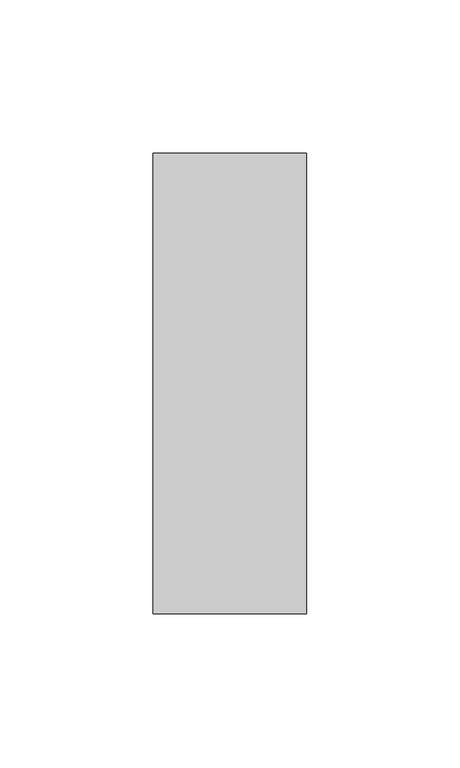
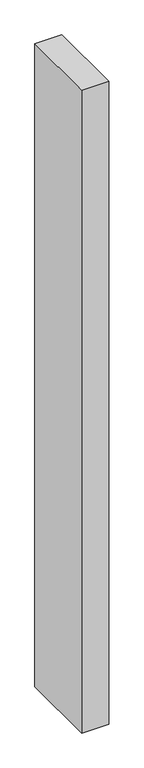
"""IFC4 building model written with IfcOpenShell, lengths in millimetres: member geometry, Прямоугольный импост : 50 x 150 мм."""

from ifc_helpers import new_model, si_unit, frame, origin, place, context, project, spatial, polyline, outline, extrude, source, transform, mapped, element, save


def member_e086a341(model_context):
    return source(origin(), model_context, "Body", "SweptSolid", [
        extrude(outline(polyline([(25.0, 75.0), (25.0, -75.0), (-25.0, -75.0), (-25.0, 75.0), (25.0, 75.0)])), frame((0.0, 0.0, -1259.5198694), z_axis=(0.0, 0.0, 1.0), x_axis=(1.0, 0.0, 0.0)), (0.0, 0.0, 1.0), 1259.5198694),
    ])


if __name__ == "__main__":
    model = new_model("IFC4")
    model_context = context("Model", 3, world=origin())
    ifc_project = project(units=[si_unit("LENGTHUNIT", "METRE", prefix="MILLI")], contexts=[model_context])
    site = spatial("IfcSite", under=ifc_project)
    building = spatial("IfcBuilding", under=site)
    placement = place(None, origin())
    member_shape = member_e086a341(model_context)
    element("IfcMember", 1, ObjectType="Прямоугольный импост : 50 x 150 мм", at=placement, inside=building, context=model_context, shape_type="MappedRepresentation", body=[
        mapped(member_shape, transform((0.0, 0.0, 0.0), x_axis=(1.0, 0.0, 0.0), y_axis=(0.0, 1.0, 0.0), z_axis=(0.0, 0.0, 1.0))),
    ])
    save(model, "model.ifc")
